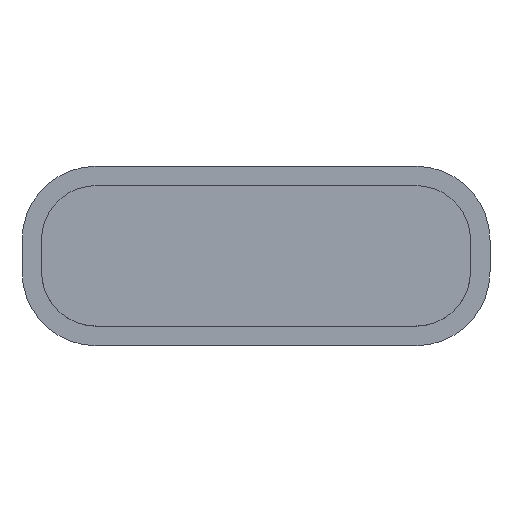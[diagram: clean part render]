
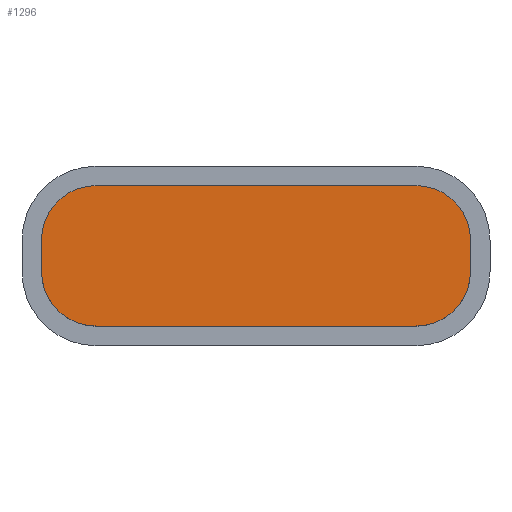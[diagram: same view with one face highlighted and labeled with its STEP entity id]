
A CAD part, top view. The second image highlights one B-rep face of the part: STEP entity #1296.
In plain terms, the highlighted planar face has unit normal (0, 0, 1).
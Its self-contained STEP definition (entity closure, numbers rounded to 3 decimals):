
#572 = CYLINDRICAL_SURFACE('',#573,1.4);
#573 = AXIS2_PLACEMENT_3D('',#574,#575,#576);
#574 = CARTESIAN_POINT('',(19.4,-34.4,5.6));
#575 = DIRECTION('',(-0.,-0.,-1.));
#576 = DIRECTION('',(1.,0.,0.));
#600 = PLANE('',#601);
#601 = AXIS2_PLACEMENT_3D('',#602,#603,#604);
#602 = CARTESIAN_POINT('',(18.,-34.4,5.6));
#603 = DIRECTION('',(-1.,0.,0.));
#604 = DIRECTION('',(0.,1.,0.));
#629 = CYLINDRICAL_SURFACE('',#630,1.4);
#630 = AXIS2_PLACEMENT_3D('',#631,#632,#633);
#631 = CARTESIAN_POINT('',(19.4,-33.6,5.6));
#632 = DIRECTION('',(-0.,-0.,-1.));
#633 = DIRECTION('',(1.,0.,0.));
#657 = PLANE('',#658);
#658 = AXIS2_PLACEMENT_3D('',#659,#660,#661);
#659 = CARTESIAN_POINT('',(19.4,-32.2,5.6));
#660 = DIRECTION('',(0.,1.,0.));
#661 = DIRECTION('',(1.,0.,0.));
#686 = CYLINDRICAL_SURFACE('',#687,1.4);
#687 = AXIS2_PLACEMENT_3D('',#688,#689,#690);
#688 = CARTESIAN_POINT('',(27.6,-33.6,5.6));
#689 = DIRECTION('',(-0.,-0.,-1.));
#690 = DIRECTION('',(1.,0.,0.));
#714 = PLANE('',#715);
#715 = AXIS2_PLACEMENT_3D('',#716,#717,#718);
#716 = CARTESIAN_POINT('',(29.,-34.4,5.6));
#717 = DIRECTION('',(-1.,0.,0.));
#718 = DIRECTION('',(0.,1.,0.));
#743 = CYLINDRICAL_SURFACE('',#744,1.4);
#744 = AXIS2_PLACEMENT_3D('',#745,#746,#747);
#745 = CARTESIAN_POINT('',(27.6,-34.4,5.6));
#746 = DIRECTION('',(-0.,-0.,-1.));
#747 = DIRECTION('',(1.,0.,0.));
#769 = PLANE('',#770);
#770 = AXIS2_PLACEMENT_3D('',#771,#772,#773);
#771 = CARTESIAN_POINT('',(19.4,-35.8,5.6));
#772 = DIRECTION('',(0.,1.,0.));
#773 = DIRECTION('',(1.,0.,0.));
#900 = VERTEX_POINT('',#901);
#901 = CARTESIAN_POINT('',(18.,-34.4,7.9));
#922 = EDGE_CURVE('',#900,#923,#925,.T.);
#923 = VERTEX_POINT('',#924);
#924 = CARTESIAN_POINT('',(19.4,-35.8,7.9));
#925 = SURFACE_CURVE('',#926,(#931,#938),.PCURVE_S1.);
#926 = CIRCLE('',#927,1.4);
#927 = AXIS2_PLACEMENT_3D('',#928,#929,#930);
#928 = CARTESIAN_POINT('',(19.4,-34.4,7.9));
#929 = DIRECTION('',(0.,0.,1.));
#930 = DIRECTION('',(1.,0.,0.));
#931 = PCURVE('',#572,#932);
#932 = DEFINITIONAL_REPRESENTATION('',(#933),#937);
#933 = LINE('',#934,#935);
#934 = CARTESIAN_POINT('',(-0.,-2.3));
#935 = VECTOR('',#936,1.);
#936 = DIRECTION('',(-1.,0.));
#937 = ( GEOMETRIC_REPRESENTATION_CONTEXT(2) 
PARAMETRIC_REPRESENTATION_CONTEXT() REPRESENTATION_CONTEXT('2D SPACE',''
  ) );
#938 = PCURVE('',#939,#944);
#939 = PLANE('',#940);
#940 = AXIS2_PLACEMENT_3D('',#941,#942,#943);
#941 = CARTESIAN_POINT('',(23.5,-34.,7.9));
#942 = DIRECTION('',(0.,0.,1.));
#943 = DIRECTION('',(1.,0.,0.));
#944 = DEFINITIONAL_REPRESENTATION('',(#945),#949);
#945 = CIRCLE('',#946,1.4);
#946 = AXIS2_PLACEMENT_2D('',#947,#948);
#947 = CARTESIAN_POINT('',(-4.1,-0.4));
#948 = DIRECTION('',(1.,0.));
#949 = ( GEOMETRIC_REPRESENTATION_CONTEXT(2) 
PARAMETRIC_REPRESENTATION_CONTEXT() REPRESENTATION_CONTEXT('2D SPACE',''
  ) );
#977 = EDGE_CURVE('',#923,#978,#980,.T.);
#978 = VERTEX_POINT('',#979);
#979 = CARTESIAN_POINT('',(27.6,-35.8,7.9));
#980 = SURFACE_CURVE('',#981,(#985,#992),.PCURVE_S1.);
#981 = LINE('',#982,#983);
#982 = CARTESIAN_POINT('',(23.5,-35.8,7.9));
#983 = VECTOR('',#984,1.);
#984 = DIRECTION('',(1.,0.,0.));
#985 = PCURVE('',#769,#986);
#986 = DEFINITIONAL_REPRESENTATION('',(#987),#991);
#987 = LINE('',#988,#989);
#988 = CARTESIAN_POINT('',(4.1,-2.3));
#989 = VECTOR('',#990,1.);
#990 = DIRECTION('',(1.,0.));
#991 = ( GEOMETRIC_REPRESENTATION_CONTEXT(2) 
PARAMETRIC_REPRESENTATION_CONTEXT() REPRESENTATION_CONTEXT('2D SPACE',''
  ) );
#992 = PCURVE('',#939,#993);
#993 = DEFINITIONAL_REPRESENTATION('',(#994),#998);
#994 = LINE('',#995,#996);
#995 = CARTESIAN_POINT('',(0.,-1.8));
#996 = VECTOR('',#997,1.);
#997 = DIRECTION('',(1.,0.));
#998 = ( GEOMETRIC_REPRESENTATION_CONTEXT(2) 
PARAMETRIC_REPRESENTATION_CONTEXT() REPRESENTATION_CONTEXT('2D SPACE',''
  ) );
#1026 = EDGE_CURVE('',#978,#1027,#1029,.T.);
#1027 = VERTEX_POINT('',#1028);
#1028 = CARTESIAN_POINT('',(29.,-34.4,7.9));
#1029 = SURFACE_CURVE('',#1030,(#1035,#1042),.PCURVE_S1.);
#1030 = CIRCLE('',#1031,1.4);
#1031 = AXIS2_PLACEMENT_3D('',#1032,#1033,#1034);
#1032 = CARTESIAN_POINT('',(27.6,-34.4,7.9));
#1033 = DIRECTION('',(0.,0.,1.));
#1034 = DIRECTION('',(1.,0.,0.));
#1035 = PCURVE('',#743,#1036);
#1036 = DEFINITIONAL_REPRESENTATION('',(#1037),#1041);
#1037 = LINE('',#1038,#1039);
#1038 = CARTESIAN_POINT('',(-0.,-2.3));
#1039 = VECTOR('',#1040,1.);
#1040 = DIRECTION('',(-1.,0.));
#1041 = ( GEOMETRIC_REPRESENTATION_CONTEXT(2) 
PARAMETRIC_REPRESENTATION_CONTEXT() REPRESENTATION_CONTEXT('2D SPACE',''
  ) );
#1042 = PCURVE('',#939,#1043);
#1043 = DEFINITIONAL_REPRESENTATION('',(#1044),#1048);
#1044 = CIRCLE('',#1045,1.4);
#1045 = AXIS2_PLACEMENT_2D('',#1046,#1047);
#1046 = CARTESIAN_POINT('',(4.1,-0.4));
#1047 = DIRECTION('',(1.,0.));
#1048 = ( GEOMETRIC_REPRESENTATION_CONTEXT(2) 
PARAMETRIC_REPRESENTATION_CONTEXT() REPRESENTATION_CONTEXT('2D SPACE',''
  ) );
#1076 = EDGE_CURVE('',#1027,#1077,#1079,.T.);
#1077 = VERTEX_POINT('',#1078);
#1078 = CARTESIAN_POINT('',(29.,-33.6,7.9));
#1079 = SURFACE_CURVE('',#1080,(#1084,#1091),.PCURVE_S1.);
#1080 = LINE('',#1081,#1082);
#1081 = CARTESIAN_POINT('',(29.,-34.,7.9));
#1082 = VECTOR('',#1083,1.);
#1083 = DIRECTION('',(0.,1.,0.));
#1084 = PCURVE('',#714,#1085);
#1085 = DEFINITIONAL_REPRESENTATION('',(#1086),#1090);
#1086 = LINE('',#1087,#1088);
#1087 = CARTESIAN_POINT('',(0.4,-2.3));
#1088 = VECTOR('',#1089,1.);
#1089 = DIRECTION('',(1.,0.));
#1090 = ( GEOMETRIC_REPRESENTATION_CONTEXT(2) 
PARAMETRIC_REPRESENTATION_CONTEXT() REPRESENTATION_CONTEXT('2D SPACE',''
  ) );
#1091 = PCURVE('',#939,#1092);
#1092 = DEFINITIONAL_REPRESENTATION('',(#1093),#1097);
#1093 = LINE('',#1094,#1095);
#1094 = CARTESIAN_POINT('',(5.5,0.));
#1095 = VECTOR('',#1096,1.);
#1096 = DIRECTION('',(0.,1.));
#1097 = ( GEOMETRIC_REPRESENTATION_CONTEXT(2) 
PARAMETRIC_REPRESENTATION_CONTEXT() REPRESENTATION_CONTEXT('2D SPACE',''
  ) );
#1125 = EDGE_CURVE('',#1077,#1126,#1128,.T.);
#1126 = VERTEX_POINT('',#1127);
#1127 = CARTESIAN_POINT('',(27.6,-32.2,7.9));
#1128 = SURFACE_CURVE('',#1129,(#1134,#1141),.PCURVE_S1.);
#1129 = CIRCLE('',#1130,1.4);
#1130 = AXIS2_PLACEMENT_3D('',#1131,#1132,#1133);
#1131 = CARTESIAN_POINT('',(27.6,-33.6,7.9));
#1132 = DIRECTION('',(0.,0.,1.));
#1133 = DIRECTION('',(1.,0.,0.));
#1134 = PCURVE('',#686,#1135);
#1135 = DEFINITIONAL_REPRESENTATION('',(#1136),#1140);
#1136 = LINE('',#1137,#1138);
#1137 = CARTESIAN_POINT('',(-0.,-2.3));
#1138 = VECTOR('',#1139,1.);
#1139 = DIRECTION('',(-1.,0.));
#1140 = ( GEOMETRIC_REPRESENTATION_CONTEXT(2) 
PARAMETRIC_REPRESENTATION_CONTEXT() REPRESENTATION_CONTEXT('2D SPACE',''
  ) );
#1141 = PCURVE('',#939,#1142);
#1142 = DEFINITIONAL_REPRESENTATION('',(#1143),#1147);
#1143 = CIRCLE('',#1144,1.4);
#1144 = AXIS2_PLACEMENT_2D('',#1145,#1146);
#1145 = CARTESIAN_POINT('',(4.1,0.4));
#1146 = DIRECTION('',(1.,0.));
#1147 = ( GEOMETRIC_REPRESENTATION_CONTEXT(2) 
PARAMETRIC_REPRESENTATION_CONTEXT() REPRESENTATION_CONTEXT('2D SPACE',''
  ) );
#1175 = VERTEX_POINT('',#1176);
#1176 = CARTESIAN_POINT('',(19.4,-32.2,7.9));
#1197 = EDGE_CURVE('',#1175,#1126,#1198,.T.);
#1198 = SURFACE_CURVE('',#1199,(#1203,#1210),.PCURVE_S1.);
#1199 = LINE('',#1200,#1201);
#1200 = CARTESIAN_POINT('',(23.5,-32.2,7.9));
#1201 = VECTOR('',#1202,1.);
#1202 = DIRECTION('',(1.,0.,0.));
#1203 = PCURVE('',#657,#1204);
#1204 = DEFINITIONAL_REPRESENTATION('',(#1205),#1209);
#1205 = LINE('',#1206,#1207);
#1206 = CARTESIAN_POINT('',(4.1,-2.3));
#1207 = VECTOR('',#1208,1.);
#1208 = DIRECTION('',(1.,0.));
#1209 = ( GEOMETRIC_REPRESENTATION_CONTEXT(2) 
PARAMETRIC_REPRESENTATION_CONTEXT() REPRESENTATION_CONTEXT('2D SPACE',''
  ) );
#1210 = PCURVE('',#939,#1211);
#1211 = DEFINITIONAL_REPRESENTATION('',(#1212),#1216);
#1212 = LINE('',#1213,#1214);
#1213 = CARTESIAN_POINT('',(0.,1.8));
#1214 = VECTOR('',#1215,1.);
#1215 = DIRECTION('',(1.,0.));
#1216 = ( GEOMETRIC_REPRESENTATION_CONTEXT(2) 
PARAMETRIC_REPRESENTATION_CONTEXT() REPRESENTATION_CONTEXT('2D SPACE',''
  ) );
#1224 = EDGE_CURVE('',#1175,#1225,#1227,.T.);
#1225 = VERTEX_POINT('',#1226);
#1226 = CARTESIAN_POINT('',(18.,-33.6,7.9));
#1227 = SURFACE_CURVE('',#1228,(#1233,#1240),.PCURVE_S1.);
#1228 = CIRCLE('',#1229,1.4);
#1229 = AXIS2_PLACEMENT_3D('',#1230,#1231,#1232);
#1230 = CARTESIAN_POINT('',(19.4,-33.6,7.9));
#1231 = DIRECTION('',(0.,0.,1.));
#1232 = DIRECTION('',(1.,0.,0.));
#1233 = PCURVE('',#629,#1234);
#1234 = DEFINITIONAL_REPRESENTATION('',(#1235),#1239);
#1235 = LINE('',#1236,#1237);
#1236 = CARTESIAN_POINT('',(-0.,-2.3));
#1237 = VECTOR('',#1238,1.);
#1238 = DIRECTION('',(-1.,0.));
#1239 = ( GEOMETRIC_REPRESENTATION_CONTEXT(2) 
PARAMETRIC_REPRESENTATION_CONTEXT() REPRESENTATION_CONTEXT('2D SPACE',''
  ) );
#1240 = PCURVE('',#939,#1241);
#1241 = DEFINITIONAL_REPRESENTATION('',(#1242),#1246);
#1242 = CIRCLE('',#1243,1.4);
#1243 = AXIS2_PLACEMENT_2D('',#1244,#1245);
#1244 = CARTESIAN_POINT('',(-4.1,0.4));
#1245 = DIRECTION('',(1.,0.));
#1246 = ( GEOMETRIC_REPRESENTATION_CONTEXT(2) 
PARAMETRIC_REPRESENTATION_CONTEXT() REPRESENTATION_CONTEXT('2D SPACE',''
  ) );
#1274 = EDGE_CURVE('',#900,#1225,#1275,.T.);
#1275 = SURFACE_CURVE('',#1276,(#1280,#1287),.PCURVE_S1.);
#1276 = LINE('',#1277,#1278);
#1277 = CARTESIAN_POINT('',(18.,-34.,7.9));
#1278 = VECTOR('',#1279,1.);
#1279 = DIRECTION('',(0.,1.,0.));
#1280 = PCURVE('',#600,#1281);
#1281 = DEFINITIONAL_REPRESENTATION('',(#1282),#1286);
#1282 = LINE('',#1283,#1284);
#1283 = CARTESIAN_POINT('',(0.4,-2.3));
#1284 = VECTOR('',#1285,1.);
#1285 = DIRECTION('',(1.,0.));
#1286 = ( GEOMETRIC_REPRESENTATION_CONTEXT(2) 
PARAMETRIC_REPRESENTATION_CONTEXT() REPRESENTATION_CONTEXT('2D SPACE',''
  ) );
#1287 = PCURVE('',#939,#1288);
#1288 = DEFINITIONAL_REPRESENTATION('',(#1289),#1293);
#1289 = LINE('',#1290,#1291);
#1290 = CARTESIAN_POINT('',(-5.5,0.));
#1291 = VECTOR('',#1292,1.);
#1292 = DIRECTION('',(0.,1.));
#1293 = ( GEOMETRIC_REPRESENTATION_CONTEXT(2) 
PARAMETRIC_REPRESENTATION_CONTEXT() REPRESENTATION_CONTEXT('2D SPACE',''
  ) );
#1296 = ADVANCED_FACE('',(#1297),#939,.T.);
#1297 = FACE_BOUND('',#1298,.T.);
#1298 = EDGE_LOOP('',(#1299,#1300,#1301,#1302,#1303,#1304,#1305,#1306));
#1299 = ORIENTED_EDGE('',*,*,#1274,.F.);
#1300 = ORIENTED_EDGE('',*,*,#922,.T.);
#1301 = ORIENTED_EDGE('',*,*,#977,.T.);
#1302 = ORIENTED_EDGE('',*,*,#1026,.T.);
#1303 = ORIENTED_EDGE('',*,*,#1076,.T.);
#1304 = ORIENTED_EDGE('',*,*,#1125,.T.);
#1305 = ORIENTED_EDGE('',*,*,#1197,.F.);
#1306 = ORIENTED_EDGE('',*,*,#1224,.T.);
